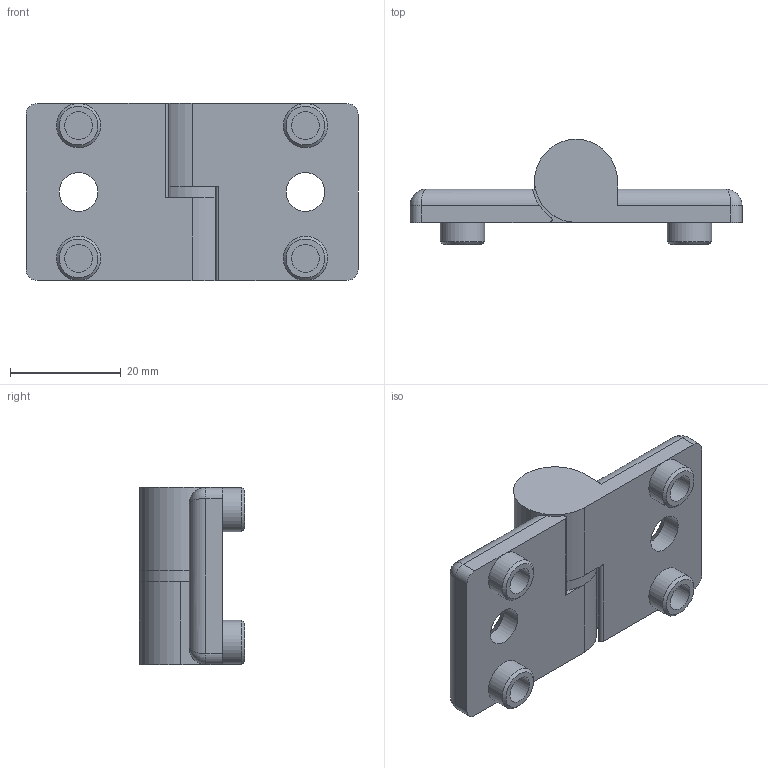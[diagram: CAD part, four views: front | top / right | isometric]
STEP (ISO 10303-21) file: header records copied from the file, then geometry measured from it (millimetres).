
FILE_DESCRIPTION((''),'2;1');
FILE_NAME('E:\catalogue and flyer\Profile catalogue 2015\Accessories ACC info\Accessories ACC step file 31Mar16\ACC-LDH6032R-8.stp','2016-04-07T13:36:02',('h029'),(''),'Autodesk Inventor 11','Autodesk Inventor 11','');
FILE_SCHEMA(('AUTOMOTIVE_DESIGN { 1 0 10303 214 1 1 1 1 }'));
Length unit declared in the file: millimetre
Products named in the file (4): ACC-LDH6032R-8; 60x32(R)-1; 60x32(R)-2; Rubber Washer
Assembly tree (3 placements, depth 2):
  ACC-LDH6032R-8
    60x32(R)-1
    60x32(R)-2
    Rubber Washer
Bounding box: 60 x 19 x 32 mm (x, y, z)
Volume: 14076.5 mm3; surface area: 7734.2 mm2
Topology: 3 solids, 3 shells, 68 faces, 150 edges, 90 vertices
Faces by surface type: cylinder 28, plane 26, bspline 9, cone 4, torus 1
Full cylindrical faces by diameter (mm): 5 x4, 6 x2, 6.2 x1, 8 x4, 15 x1
Entity records: 2473 total; most frequent: CARTESIAN_POINT 995, DIRECTION 314, ORIENTED_EDGE 236, AXIS2_PLACEMENT_3D 132, EDGE_CURVE 118, EDGE_LOOP 102, VERTEX_POINT 84, FACE_OUTER_BOUND 68
